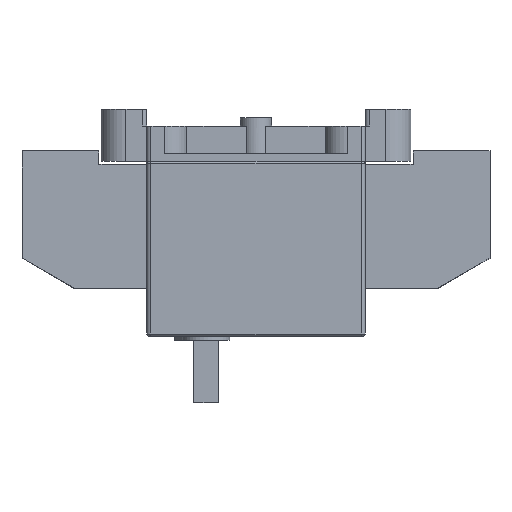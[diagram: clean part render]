
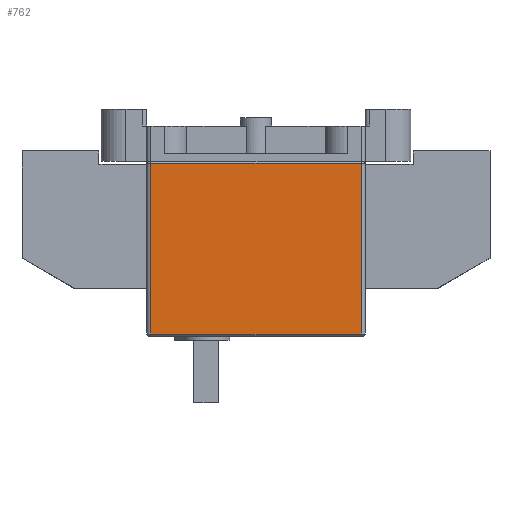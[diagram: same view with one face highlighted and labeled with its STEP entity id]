
A CAD part, left-side view. The second image highlights one B-rep face of the part: STEP entity #762.
In plain terms, the highlighted planar face has unit normal (-1, 0, 0).
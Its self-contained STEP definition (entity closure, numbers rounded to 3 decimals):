
#762=ADVANCED_FACE('',(#1319),#1043,.F.);
#1043=PLANE('',#7033);
#1319=FACE_OUTER_BOUND('',#1685,.T.);
#1685=EDGE_LOOP('',(#3163,#3164,#3165,#3166));
#3163=ORIENTED_EDGE('',*,*,#5028,.T.);
#3164=ORIENTED_EDGE('',*,*,#4992,.T.);
#3165=ORIENTED_EDGE('',*,*,#5029,.F.);
#3166=ORIENTED_EDGE('',*,*,#5019,.T.);
#4139=VERTEX_POINT('',#10485);
#4145=VERTEX_POINT('',#10511);
#4162=VERTEX_POINT('',#10583);
#4166=VERTEX_POINT('',#10610);
#4992=EDGE_CURVE('',#4145,#4139,#5783,.T.);
#5019=EDGE_CURVE('',#4162,#4166,#5792,.T.);
#5028=EDGE_CURVE('',#4166,#4145,#5798,.T.);
#5029=EDGE_CURVE('',#4162,#4139,#5799,.T.);
#5783=LINE('',#10514,#6497);
#5792=LINE('',#10611,#6506);
#5798=LINE('',#10626,#6512);
#5799=LINE('',#10628,#6513);
#6497=VECTOR('',#8545,1.);
#6506=VECTOR('',#8602,1.);
#6512=VECTOR('',#8624,1.);
#6513=VECTOR('',#8627,1.);
#7033=AXIS2_PLACEMENT_3D('',#10629,#8628,#8629);
#8545=DIRECTION('',(0.,1.,0.));
#8602=DIRECTION('',(0.,-1.,0.));
#8624=DIRECTION('',(0.,0.,1.));
#8627=DIRECTION('',(0.,0.,1.));
#8628=DIRECTION('',(1.,0.,0.));
#8629=DIRECTION('',(0.,1.,0.));
#10485=CARTESIAN_POINT('',(-197.5,50.5,-1.));
#10511=CARTESIAN_POINT('',(-197.5,-50.5,-1.));
#10514=CARTESIAN_POINT('',(-197.5,-50.5,-1.));
#10583=CARTESIAN_POINT('',(-197.5,50.5,-83.));
#10610=CARTESIAN_POINT('',(-197.5,-50.5,-83.));
#10611=CARTESIAN_POINT('',(-197.5,-50.5,-83.));
#10626=CARTESIAN_POINT('',(-197.5,-50.5,-84.));
#10628=CARTESIAN_POINT('',(-197.5,50.5,-84.));
#10629=CARTESIAN_POINT('',(-197.5,-50.5,-84.));
